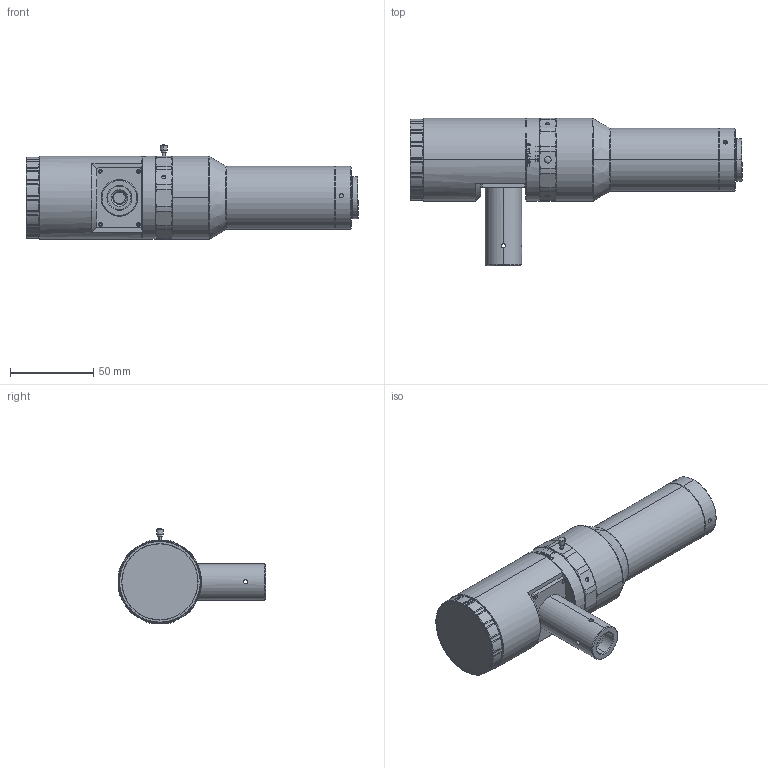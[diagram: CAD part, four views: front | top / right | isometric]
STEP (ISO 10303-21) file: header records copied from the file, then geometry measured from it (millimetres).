
FILE_DESCRIPTION (( 'STEP AP214' ), '1' );
FILE_NAME ('DTCA121-5C-GV2.1.STEP', '2024-12-06T09:27:33', ( 'jg' ), ( '' ), 'SwSTEP 2.0', 'SolidWorks 2017', '' );
FILE_SCHEMA (( 'AUTOMOTIVE_DESIGN' ));
Length unit declared in the file: millimetre
Products named in the file (1): DTCA121-5C-GV2.1
Bounding box: 199.64 x 88.6 x 57.03 mm (x, y, z)
Volume: 326699.1 mm3; surface area: 36769.4 mm2
Topology: 1 solids, 5 shells, 467 faces, 1141 edges, 721 vertices
Faces by surface type: cylinder 177, cone 122, plane 116, bspline 48, torus 4
Entity records: 17195 total; most frequent: CARTESIAN_POINT 6806, ORIENTED_EDGE 2278, DIRECTION 1947, EDGE_CURVE 1139, AXIS2_PLACEMENT_3D 771, VERTEX_POINT 721, EDGE_LOOP 514, FACE_OUTER_BOUND 467
